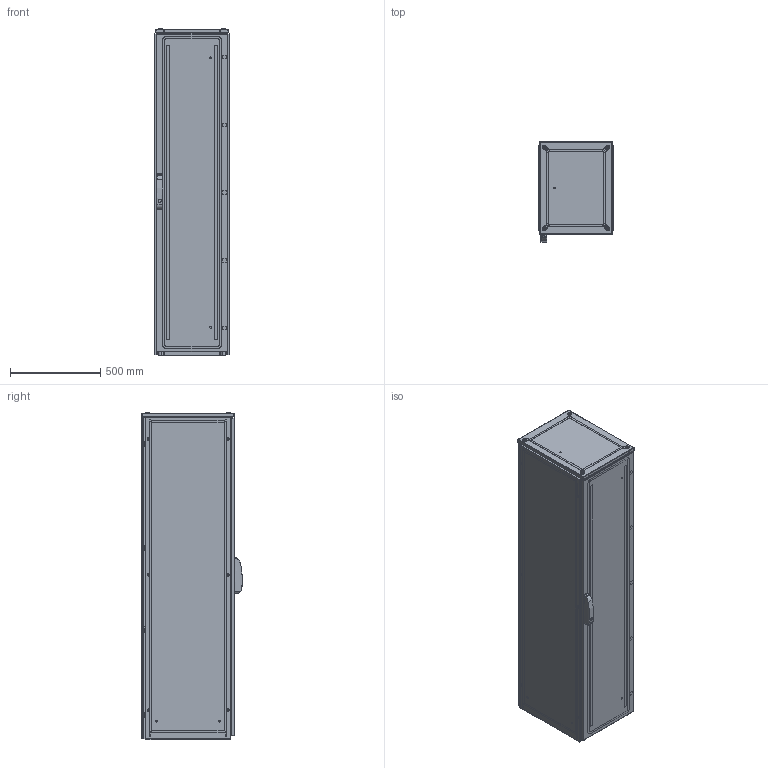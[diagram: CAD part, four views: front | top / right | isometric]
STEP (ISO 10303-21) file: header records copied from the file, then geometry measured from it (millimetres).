
FILE_DESCRIPTION(/* description */ ('STEP AP214'),/* implementation_level */ '2;1');
FILE_NAME(/* name */ 'ENUX041805PR-LOD350',/* time_stamp */ '2025-08-04T13:54:39+02:00',/* author */ ('License CC BY-ND 4.0'),/* organization */ ('CADENAS'),/* preprocessor_version */ 'ST-DEVELOPER v19.3',/* originating_system */ 'PARTsolutions',/* authorisation */ ' ');
FILE_SCHEMA (('AUTOMOTIVE_DESIGN {1 0 10303 214 3 1 1}'));
Length unit declared in the file: millimetre
Products named in the file (10): ENUX041805PR-LOD350; ENUX041805PR-LOD350_CON; ENUX041805PR-LOD350_floor1; ENUX041805PR-LOD350_floor2; Screw M12x30 architecture 350; ENUX041805PR-LOD350_side; ENUX041805PR-LOD350_top; ENUX041805PR-LOD350_back_door; ENUX041805PR-LOD350_door; ENUX041805PR-LOD350_handle
Assembly tree (15 placements, depth 2):
  ENUX041805PR-LOD350
    ENUX041805PR-LOD350_CON
    ENUX041805PR-LOD350_floor1  x2
    ENUX041805PR-LOD350_floor2  x2
    Screw M12x30 architecture 350  x4
    ENUX041805PR-LOD350_side  x2
    ENUX041805PR-LOD350_top
    ENUX041805PR-LOD350_back_door
    ENUX041805PR-LOD350_door
    ENUX041805PR-LOD350_handle
Bounding box: 412 x 557 x 1814.1 mm (x, y, z)
Volume: 14203569.2 mm3; surface area: 11988830.1 mm2
Topology: 15 solids, 15 shells, 1604 faces, 4479 edges, 2916 vertices
Faces by surface type: plane 810, cylinder 629, cone 77, torus 72, sphere 16
Full cylindrical faces by diameter (mm): 4.5 x96, 6 x14, 6.8 x8, 9 x9, 12 x16, 13 x4, 18 x1, 21 x4
Entity records: 42327 total; most frequent: CARTESIAN_POINT 7360, DIRECTION 7323, ORIENTED_EDGE 6888, EDGE_CURVE 3444, AXIS2_PLACEMENT_3D 2601, VERTEX_POINT 2397, LINE 2121, VECTOR 2121
